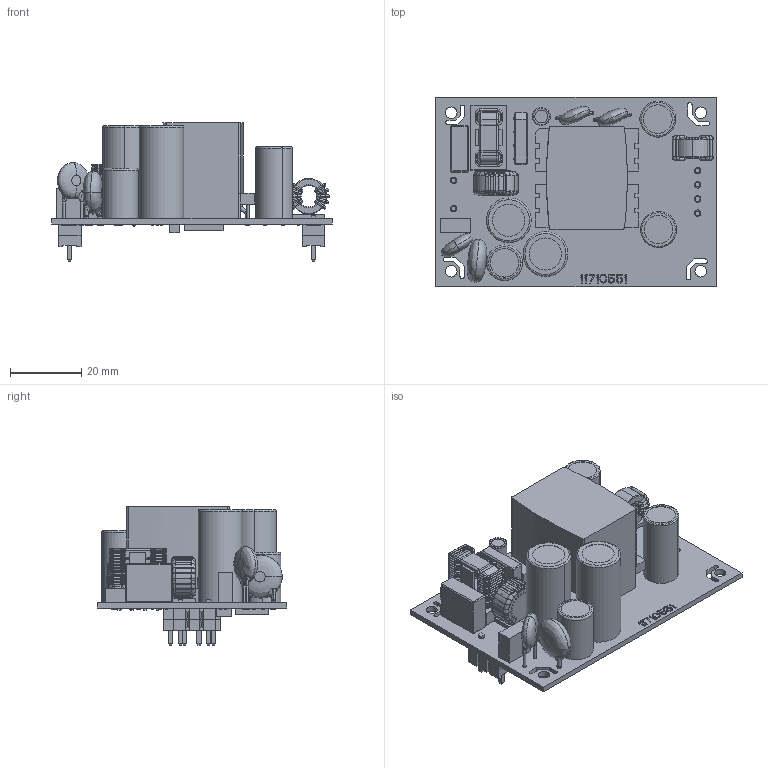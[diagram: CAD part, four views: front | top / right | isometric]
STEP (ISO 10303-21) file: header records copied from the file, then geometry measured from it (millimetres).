
FILE_DESCRIPTION (( 'STEP AP214' ), '1' );
FILE_NAME ('RACM60-K-OF-PCB_20200407.stp', '2020-04-15T11:06:12', ( '' ), ( '' ), 'SwSTEP 2.0', 'SolidWorks 2019', '' );
FILE_SCHEMA (( 'AUTOMOTIVE_DESIGN' ));
Length unit declared in the file: millimetre
Products named in the file (2): RACM60-K-OF-PCB_20200407; RACM60-K-OF-PCB_20200415
Assembly tree (1 placements, depth 2):
  RACM60-K-OF-PCB_20200407
    RACM60-K-OF-PCB_20200415
Bounding box: 78.4 x 53 x 38.82 mm (x, y, z)
Volume: 40467.1 mm3; surface area: 27623.1 mm2
Topology: 85 solids, 85 shells, 2338 faces, 5994 edges, 3768 vertices
Faces by surface type: plane 876, cylinder 848, torus 522, bspline 70, cone 22
Entity records: 106869 total; most frequent: CARTESIAN_POINT 21733, DIRECTION 12936, ORIENTED_EDGE 11988, EDGE_CURVE 5994, AXIS2_PLACEMENT_3D 5028, VERTEX_POINT 3768, LINE 2880, VECTOR 2880
